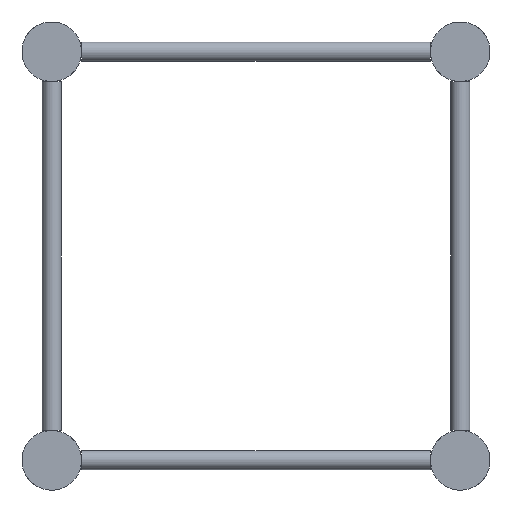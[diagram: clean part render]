
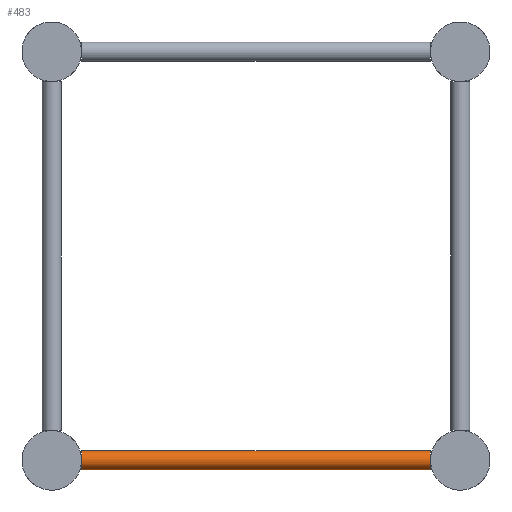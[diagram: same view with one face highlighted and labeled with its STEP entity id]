
A CAD part, left-side view. The second image highlights one B-rep face of the part: STEP entity #483.
In plain terms, the highlighted cylindrical face has radius 8 mm (diameter 16 mm), a full revolution.
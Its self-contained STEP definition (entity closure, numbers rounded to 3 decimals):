
#32=FACE_BOUND('',#121,.T.);
#60=CYLINDRICAL_SURFACE('',#531,8.);
#82=FACE_OUTER_BOUND('',#120,.T.);
#120=EDGE_LOOP('',(#326,#327));
#121=EDGE_LOOP('',(#328,#329));
#178=CIRCLE('',#528,8.);
#179=CIRCLE('',#530,8.);
#180=CIRCLE('',#532,8.);
#181=CIRCLE('',#533,8.);
#218=VERTEX_POINT('',#731);
#219=VERTEX_POINT('',#732);
#220=VERTEX_POINT('',#736);
#221=VERTEX_POINT('',#737);
#263=EDGE_CURVE('',#218,#219,#178,.T.);
#265=EDGE_CURVE('',#220,#221,#179,.T.);
#266=EDGE_CURVE('',#219,#218,#180,.T.);
#267=EDGE_CURVE('',#221,#220,#181,.T.);
#326=ORIENTED_EDGE('',*,*,#263,.F.);
#327=ORIENTED_EDGE('',*,*,#266,.F.);
#328=ORIENTED_EDGE('',*,*,#265,.F.);
#329=ORIENTED_EDGE('',*,*,#267,.F.);
#483=ADVANCED_FACE('',(#82,#32),#60,.T.);
#528=AXIS2_PLACEMENT_3D('',#734,#614,#615);
#530=AXIS2_PLACEMENT_3D('',#739,#619,#620);
#531=AXIS2_PLACEMENT_3D('',#740,#621,#622);
#532=AXIS2_PLACEMENT_3D('',#741,#623,#624);
#533=AXIS2_PLACEMENT_3D('',#742,#625,#626);
#614=DIRECTION('center_axis',(0.,1.,0.));
#615=DIRECTION('ref_axis',(1.,0.,0.));
#619=DIRECTION('center_axis',(0.,-1.,0.));
#620=DIRECTION('ref_axis',(1.,0.,0.));
#621=DIRECTION('center_axis',(0.,1.,0.));
#622=DIRECTION('ref_axis',(1.,0.,0.));
#623=DIRECTION('center_axis',(0.,1.,0.));
#624=DIRECTION('ref_axis',(1.,0.,0.));
#625=DIRECTION('center_axis',(0.,-1.,0.));
#626=DIRECTION('ref_axis',(1.,0.,0.));
#731=CARTESIAN_POINT('',(17.,-30.395,-344.574));
#732=CARTESIAN_POINT('',(33.,-30.395,-344.574));
#734=CARTESIAN_POINT('Origin',(25.,-30.395,-344.574));
#736=CARTESIAN_POINT('',(17.,-319.895,-344.574));
#737=CARTESIAN_POINT('',(33.,-319.895,-344.574));
#739=CARTESIAN_POINT('Origin',(25.,-319.895,-344.574));
#740=CARTESIAN_POINT('Origin',(25.,-319.895,-344.574));
#741=CARTESIAN_POINT('Origin',(25.,-30.395,-344.574));
#742=CARTESIAN_POINT('Origin',(25.,-319.895,-344.574));
